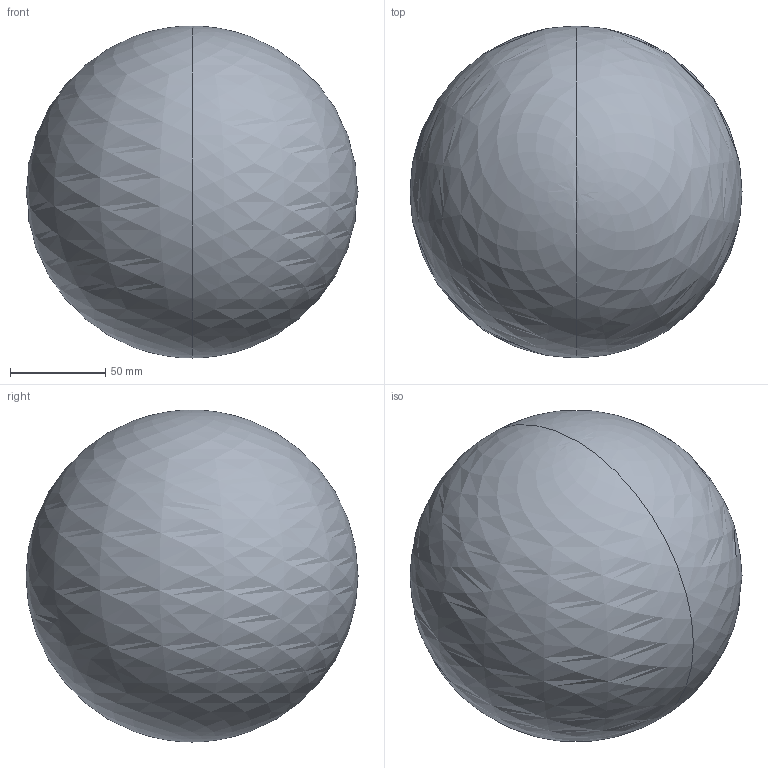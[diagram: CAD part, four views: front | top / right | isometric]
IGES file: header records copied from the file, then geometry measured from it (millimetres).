
Global section: file name: No Iges File Name specified; native system: AutoDesk Inventor R6.0; preprocessor: AutoDesk Inventor Iges Exporter R6.0; author: No Author specified; organization: No Organization specified; date: 20060207.215544; units: inch
Bounding box: 174.62 x 174.62 x 174.62 mm (x, y, z)
Surface area: 95799.4 mm2 (no closed solid volume)
Topology: 0 solids, 0 shells, 2 faces, 8 edges, 4 vertices
Faces by surface type: revolution 2
